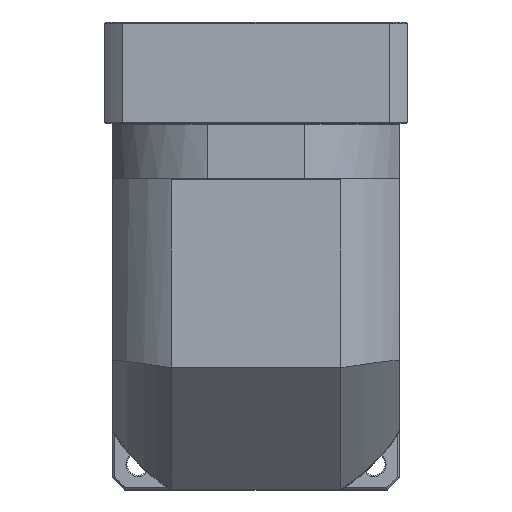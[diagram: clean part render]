
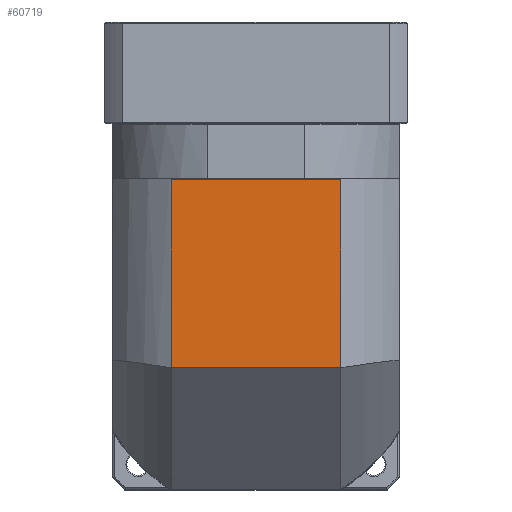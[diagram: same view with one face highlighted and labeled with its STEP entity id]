
A CAD part, top view. The second image highlights one B-rep face of the part: STEP entity #60719.
In plain terms, the highlighted planar face has unit normal (0, 0, 1).
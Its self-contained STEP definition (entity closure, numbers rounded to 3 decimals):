
#4609 = LINE ( 'NONE', #101544, #19842 ) ;
#5408 = LINE ( 'NONE', #65772, #125708 ) ;
#6938 = EDGE_CURVE ( 'NONE', #94332, #7713, #119998, .T. ) ;
#7713 = VERTEX_POINT ( 'NONE', #39213 ) ;
#19086 = DIRECTION ( 'NONE',  ( 1., 0., 0. ) ) ;
#19842 = VECTOR ( 'NONE', #134330, 1000. ) ;
#33546 = VECTOR ( 'NONE', #88193, 1000. ) ;
#36754 = ORIENTED_EDGE ( 'NONE', *, *, #41802, .F. ) ;
#37779 = CARTESIAN_POINT ( 'NONE',  ( -152.788, 68.235, 94.364 ) ) ;
#38983 = FACE_OUTER_BOUND ( 'NONE', #119397, .T. ) ;
#39213 = CARTESIAN_POINT ( 'NONE',  ( -152.788, 161.235, 94.364 ) ) ;
#41802 = EDGE_CURVE ( 'NONE', #54802, #51130, #5408, .T. ) ;
#47678 = CARTESIAN_POINT ( 'NONE',  ( -181.773, 68.235, 94.364 ) ) ;
#51130 = VERTEX_POINT ( 'NONE', #77021 ) ;
#54802 = VERTEX_POINT ( 'NONE', #89301 ) ;
#60719 = ADVANCED_FACE ( 'NONE', ( #38983 ), #127146, .F. ) ;
#62430 = LINE ( 'NONE', #47678, #123534 ) ;
#65772 = CARTESIAN_POINT ( 'NONE',  ( -68.758, -184.869, 94.364 ) ) ;
#70836 = ORIENTED_EDGE ( 'NONE', *, *, #91702, .F. ) ;
#73941 = DIRECTION ( 'NONE',  ( 0., 0., -1. ) ) ;
#75692 = DIRECTION ( 'NONE',  ( 0., -1., 0. ) ) ;
#77021 = CARTESIAN_POINT ( 'NONE',  ( -68.758, 68.235, 94.364 ) ) ;
#77127 = ORIENTED_EDGE ( 'NONE', *, *, #92977, .F. ) ;
#87046 = ORIENTED_EDGE ( 'NONE', *, *, #6938, .F. ) ;
#87939 = DIRECTION ( 'NONE',  ( -1., 0., 0. ) ) ;
#88193 = DIRECTION ( 'NONE',  ( 0., 1., 0. ) ) ;
#89301 = CARTESIAN_POINT ( 'NONE',  ( -68.758, 161.235, 94.364 ) ) ;
#91702 = EDGE_CURVE ( 'NONE', #51130, #94332, #62430, .T. ) ;
#92977 = EDGE_CURVE ( 'NONE', #7713, #54802, #4609, .T. ) ;
#94332 = VERTEX_POINT ( 'NONE', #37779 ) ;
#101544 = CARTESIAN_POINT ( 'NONE',  ( -181.773, 161.235, 94.364 ) ) ;
#105378 = AXIS2_PLACEMENT_3D ( 'NONE', #128556, #73941, #19086 ) ;
#109578 = CARTESIAN_POINT ( 'NONE',  ( -152.788, -184.869, 94.364 ) ) ;
#119397 = EDGE_LOOP ( 'NONE', ( #70836, #36754, #77127, #87046 ) ) ;
#119998 = LINE ( 'NONE', #109578, #33546 ) ;
#123534 = VECTOR ( 'NONE', #87939, 1000. ) ;
#125708 = VECTOR ( 'NONE', #75692, 1000. ) ;
#127146 = PLANE ( 'NONE',  #105378 ) ;
#128556 = CARTESIAN_POINT ( 'NONE',  ( -181.773, 161.735, 94.364 ) ) ;
#134330 = DIRECTION ( 'NONE',  ( 1., 0., 0. ) ) ;
